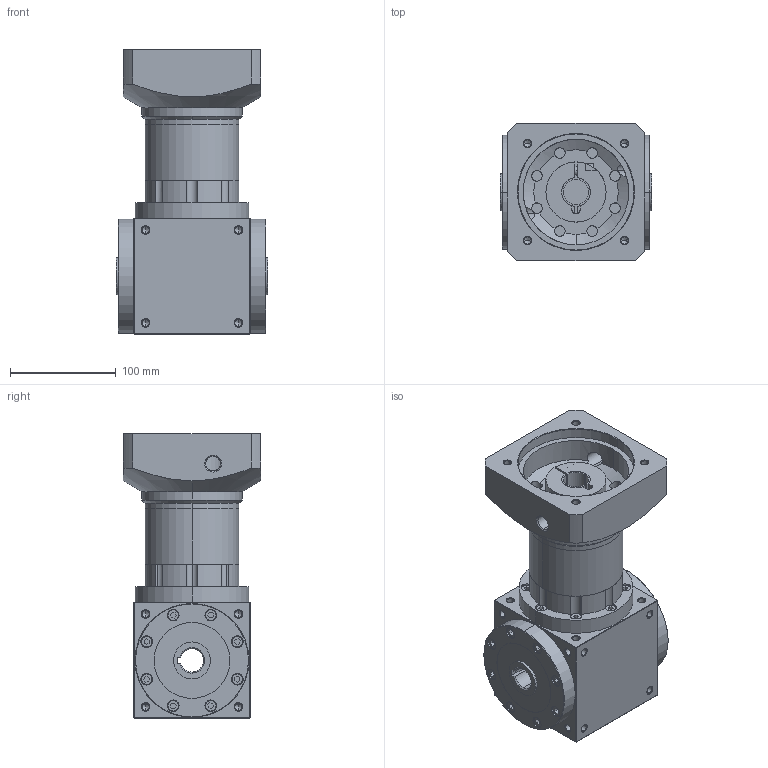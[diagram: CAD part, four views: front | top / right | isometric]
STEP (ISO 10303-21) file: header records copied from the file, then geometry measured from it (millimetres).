
FILE_DESCRIPTION (( 'STEP AP203' ), '1' );
FILE_NAME ('AT120-FH-L3-24-110-130M8.STEP', '2025-08-15T03:29:52', ( 'Windows User' ), ( 'P R C' ), 'SwSTEP 2.0', 'SolidWorks 2016', '' );
FILE_SCHEMA (( 'CONFIG_CONTROL_DESIGN' ));
Length unit declared in the file: millimetre
Products named in the file (6): AT120-双级齿圈; AT120-输入法兰-G-110-M8-130; AT120-FH-L3-24-110-130M8; AT120-蛌褒眊极-謂怀堤; AT120-怀堤楊擘-蠶講; 输入胀套-27
Assembly tree (5 placements, depth 2):
  AT120-FH-L3-24-110-130M8
    AT120-蛌褒眊极-謂怀堤
    AT120-怀堤楊擘-蠶講
    输入胀套-27
    AT120-双级齿圈
    AT120-输入法兰-G-110-M8-130
Bounding box: 144 x 130 x 270 mm (x, y, z)
Volume: 2200454.4 mm3; surface area: 320222.1 mm2
Topology: 5 solids, 17 shells, 1465 faces, 3812 edges, 2424 vertices
Faces by surface type: plane 752, cylinder 362, cone 231, bspline 120
Entity records: 52581 total; most frequent: CARTESIAN_POINT 17256, ORIENTED_EDGE 7448, DIRECTION 6750, EDGE_CURVE 3724, VERTEX_POINT 2424, VECTOR 2372, LINE 2372, AXIS2_PLACEMENT_3D 2189
